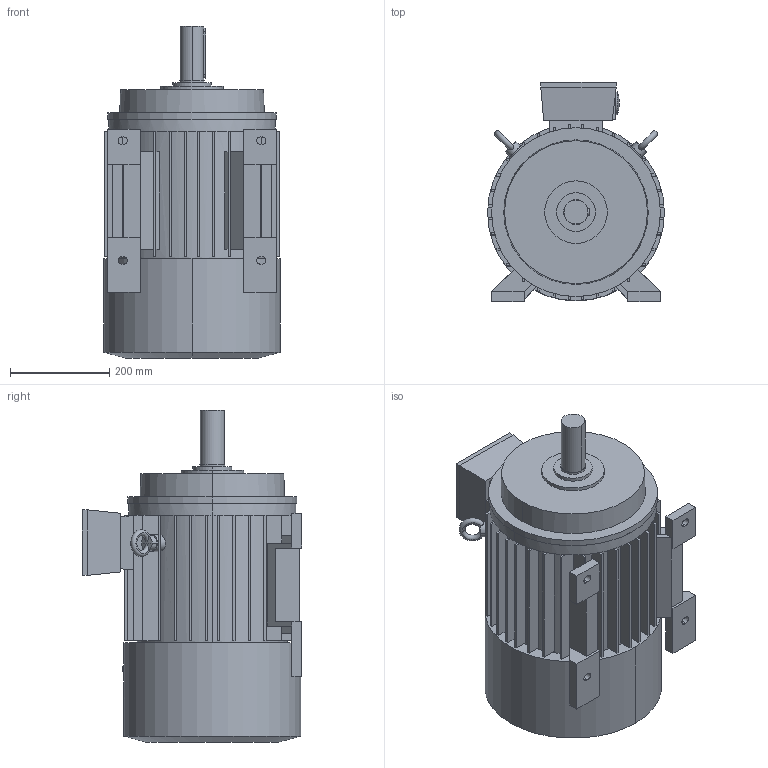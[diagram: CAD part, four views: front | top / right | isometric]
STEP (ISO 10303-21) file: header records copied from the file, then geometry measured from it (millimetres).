
FILE_DESCRIPTION((''),'2;1');
FILE_NAME('1LG4183-2AA60_PRT_PRT','2003-07-11T',('mobil2'),(''),'PRO/ENGINEER BY PARAMETRIC TECHNOLOGY CORPORATION, 2002030','PRO/ENGINEER BY PARAMETRIC TECHNOLOGY CORPORATION, 2002030','');
FILE_SCHEMA(('CONFIG_CONTROL_DESIGN'));
Length unit declared in the file: millimetre
Products named in the file (1): 1LG4183-2AA60_PRT_PRT
Bounding box: 356 x 441.8 x 668.5 mm (x, y, z)
Volume: 49177854.5 mm3; surface area: 1402514.9 mm2
Topology: 1 solids, 1 shells, 366 faces, 986 edges, 616 vertices
Faces by surface type: plane 297, cylinder 47, sphere 12, torus 6, cone 4
Entity records: 11669 total; most frequent: CARTESIAN_POINT 2445, ORIENTED_EDGE 1948, DIRECTION 1872, EDGE_CURVE 974, VECTOR 700, LINE 700, VERTEX_POINT 616, AXIS2_PLACEMENT_3D 586
